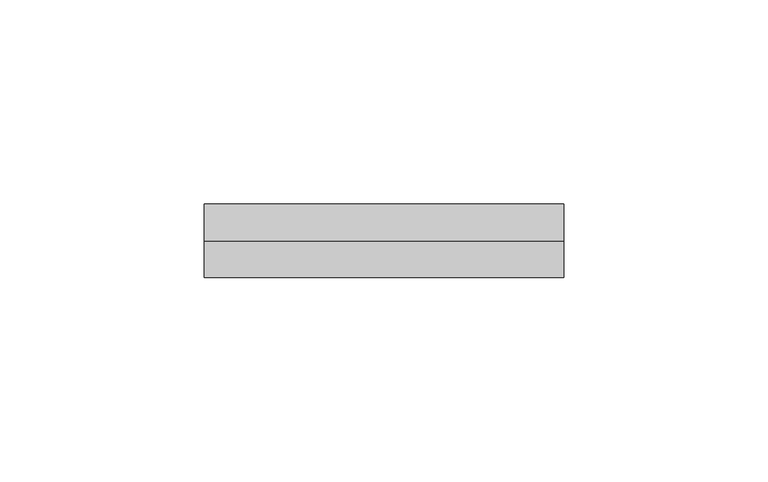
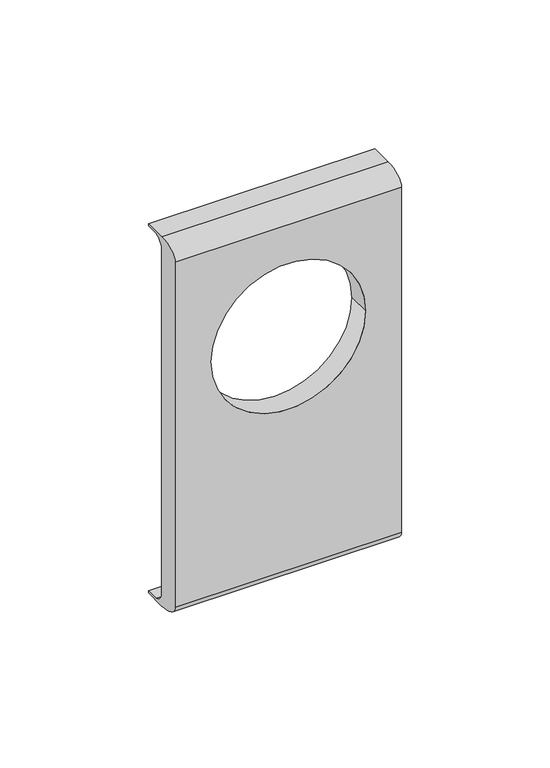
"""IFC4 building model written with IfcOpenShell, lengths in millimetres: proxy geometry, КНС_РамкаСуппортPDA-N_ILC_DKC : Рамка суппорт PDA-N_DKC."""

from ifc_helpers import new_model, si_unit, point, frame, origin, place, context, project, spatial, polyline, circle_curve, ellipse_curve, trimmed, source, transform, mapped, element, save
from ifc_brep_helpers import plane_surface, revolved_surface, extruded_surface, advanced_brep


def electrical_fixtures_1235a608(model_context):
    return source(origin(), model_context, "Body", "AdvancedBrep", [
        advanced_brep(
        [(44.0, 9.0, 50.85), (44.0, 0.0, 50.85), (44.0, -9.0, 45.85), (44.0, -9.0, -95.85), (44.0, 0.0, -100.85), (44.0, 9.0, -100.85), (44.0, 9.0, -100.0), (44.0, 3.9801295, -100.0), (44.0, 0.0, -95.85), (44.0, 0.0, 45.85), (44.0, 3.9801295, 50.0), (44.0, 9.0, 50.0), (-44.0, 9.0, 50.85), (-44.0, 9.0, 50.0), (-44.0, 3.9801295, 50.0), (-44.0, 0.0, 45.85), (-44.0, 0.0, -95.85), (-44.0, 3.9801295, -100.0), (-44.0, 9.0, -100.0), (-44.0, 9.0, -100.85), (-44.0, 0.0, -100.85), (-44.0, -9.0, -95.85), (-44.0, -9.0, 45.85), (-44.0, 0.0, 50.85), (30.0, -9.0, 0.0), (-30.0, -9.0, 0.0), (-30.0, 0.0, 0.0), (30.0, 0.0, 0.0)],
        [
            (0, 1),
            (1, 2, ellipse_curve(frame((44.0, 0.0, 45.85), z_axis=(1.0, 0.0, 0.0), x_axis=(0.0, 1.0, 0.0)), 9.0, 5.0)),
            (2, 3),
            (3, 4, ellipse_curve(frame((44.0, 0.0, -95.85), z_axis=(1.0, 0.0, 0.0), x_axis=(0.0, 1.0, 0.0)), 9.0, 5.0)),
            (4, 5),
            (5, 6),
            (6, 7),
            (7, 8, ellipse_curve(frame((44.0, 9.0, -95.85), z_axis=(-1.0, 0.0, 0.0), x_axis=(0.0, 1.0, 0.0)), 9.0, 5.0)),
            (8, 9),
            (9, 10, ellipse_curve(frame((44.0, 9.0, 45.85), z_axis=(-1.0, 0.0, 0.0), x_axis=(0.0, 1.0, 0.0)), 9.0, 5.0)),
            (10, 11),
            (11, 0),
            (12, 13),
            (13, 14),
            (14, 15, ellipse_curve(frame((-44.0, 9.0, 45.85), z_axis=(1.0, 0.0, 0.0), x_axis=(0.0, 1.0, 0.0)), 9.0, 5.0)),
            (15, 16),
            (16, 17, ellipse_curve(frame((-44.0, 9.0, -95.85), z_axis=(1.0, 0.0, 0.0), x_axis=(0.0, 1.0, 0.0)), 9.0, 5.0)),
            (17, 18),
            (18, 19),
            (19, 20),
            (20, 21, ellipse_curve(frame((-44.0, 0.0, -95.85), z_axis=(-1.0, 0.0, 0.0), x_axis=(0.0, 1.0, 0.0)), 9.0, 5.0)),
            (21, 22),
            (22, 23, ellipse_curve(frame((-44.0, 0.0, 45.85), z_axis=(-1.0, 0.0, 0.0), x_axis=(0.0, 1.0, 0.0)), 9.0, 5.0)),
            (23, 12),
            (0, 12),
            (23, 1),
            (2, 22),
            (21, 3),
            (24, 25, circle_curve(frame((0.0, -9.0, 0.0), z_axis=(0.0, 1.0, 0.0), x_axis=(1.0, 0.0, 0.0)), 30.0)),
            (25, 24, circle_curve(frame((0.0, -9.0, 0.0), z_axis=(0.0, 1.0, 0.0), x_axis=(1.0, 0.0, 0.0)), 30.0)),
            (4, 20),
            (19, 5),
            (18, 6),
            (17, 7),
            (8, 16),
            (15, 9),
            (26, 27, circle_curve(frame((0.0, 0.0, 0.0), z_axis=(0.0, -1.0, 0.0), x_axis=(1.0, 0.0, 0.0)), 30.0)),
            (27, 26, circle_curve(frame((0.0, 0.0, 0.0), z_axis=(0.0, -1.0, 0.0), x_axis=(1.0, 0.0, 0.0)), 30.0)),
            (10, 14),
            (13, 11),
            (24, 27),
            (26, 25),
        ],
        [
            plane_surface(frame((44.0, 9.0, 50.85), z_axis=(1.0, 0.0, 0.0), x_axis=(0.0, -1.0, 0.0))),
            plane_surface(frame((-44.0, 9.0, 50.85), z_axis=(-1.0, 0.0, 0.0), x_axis=(0.0, 1.0, 0.0))),
            plane_surface(frame((44.0, 9.0, 50.85), z_axis=(0.0, 0.0, 1.0), x_axis=(-1.0, 0.0, 0.0))),
            plane_surface(frame((44.0, -9.0, 45.85), z_axis=(0.0, -1.0, 0.0), x_axis=(-1.0, 0.0, 0.0))),
            plane_surface(frame((44.0, 0.0, -100.85), z_axis=(0.0, 0.0, -1.0), x_axis=(-1.0, 0.0, 0.0))),
            plane_surface(frame((44.0, 9.0, -100.85), z_axis=(0.0, 1.0, 0.0), x_axis=(-1.0, 0.0, 0.0))),
            plane_surface(frame((44.0, 9.0, -100.0), z_axis=(0.0, 0.0, 1.0), x_axis=(-1.0, 0.0, 0.0))),
            plane_surface(frame((44.0, 0.0, -95.85), z_axis=(0.0, 1.0, 0.0), x_axis=(-1.0, 0.0, 0.0))),
            plane_surface(frame((44.0, 3.9801295, 50.0), z_axis=(0.0, 0.0, -1.0), x_axis=(-1.0, 0.0, 0.0))),
            plane_surface(frame((44.0, 9.0, 50.0), z_axis=(0.0, 1.0, 0.0), x_axis=(-1.0, 0.0, 0.0))),
            extruded_surface(trimmed(ellipse_curve(frame((-132.0, 0.0, 45.85), z_axis=(1.0, 0.0, 0.0), x_axis=(0.0, 1.0, 0.0)), 9.0, 5.0), [point((-132.0, 0.0, 50.85))], [point((-132.0, -9.0, 45.85))], True, "CARTESIAN"), (88.0, 0.0, 0.0), 88.0),
            extruded_surface(trimmed(ellipse_curve(frame((-132.0, 0.0, -95.85), z_axis=(1.0, 0.0, 0.0), x_axis=(0.0, 1.0, 0.0)), 9.0, 5.0), [point((-132.0, -9.0, -95.85))], [point((-132.0, 0.0, -100.85))], True, "CARTESIAN"), (88.0, 0.0, 0.0), 88.0),
            extruded_surface(trimmed(ellipse_curve(frame((-132.0, 9.0, -95.85), z_axis=(-1.0, 0.0, 0.0), x_axis=(0.0, 1.0, 0.0)), 9.0, 5.0), [point((-132.0, 3.9801295, -100.0))], [point((-132.0, 0.0, -95.85))], True, "CARTESIAN"), (88.0, 0.0, 0.0), 88.0),
            extruded_surface(trimmed(ellipse_curve(frame((-132.0, 9.0, 45.85), z_axis=(-1.0, 0.0, 0.0), x_axis=(0.0, 1.0, 0.0)), 9.0, 5.0), [point((-132.0, 0.0, 45.85))], [point((-132.0, 3.9801295, 50.0))], True, "CARTESIAN"), (88.0, 0.0, 0.0), 88.0),
            revolved_surface(polyline([(30.0, -9.0, 0.0), (30.0, 0.0, 0.0)]), (0.0, 0.0, 0.0), (0.0, -1.0, 0.0)),
        ],
        [
            (0, [[1, 2, 3, 4, 5, 6, 7, 8, 9, 10, 11, 12]]),
            (1, [[13, 14, 15, 16, 17, 18, 19, 20, 21, 22, 23, 24]]),
            (2, [[-1, 25, -24, 26]]),
            (3, [[-3, 27, -22, 28], [29, 30]]),
            (4, [[-5, 31, -20, 32]]),
            (5, [[-6, -32, -19, 33]]),
            (6, [[-7, -33, -18, 34]]),
            (7, [[-9, 35, -16, 36], [37, 38]]),
            (8, [[-11, 39, -14, 40]]),
            (9, [[-12, -40, -13, -25]]),
            (10, [[-2, -26, -23, -27]]),
            (11, [[-4, -28, -21, -31]]),
            (12, [[-8, -34, -17, -35]]),
            (13, [[-10, -36, -15, -39]]),
            (14, [[41, -37, 42, -29]]),
            (14, [[-41, -30, -42, -38]]),
        ],
    ),
    ])


if __name__ == "__main__":
    model = new_model("IFC4")
    model_context = context("Model", 3, world=origin())
    ifc_project = project(units=[si_unit("LENGTHUNIT", "METRE", prefix="MILLI")], contexts=[model_context])
    site = spatial("IfcSite", under=ifc_project)
    building = spatial("IfcBuilding", under=site)
    placement = place(None, origin())
    electrical_fixtures_shape = electrical_fixtures_1235a608(model_context)
    element("IfcBuildingElementProxy", 1, Name="КНС_РамкаСуппортPDA-N_ILC_DKC : Рамка суппорт PDA-N_DKC", ObjectType="КНС_РамкаСуппортPDA-N_ILC_DKC : Рамка суппорт PDA-N_DKC", at=placement, inside=building, context=model_context, shape_type="MappedRepresentation", body=[
        mapped(electrical_fixtures_shape, transform((0.0, 0.0, 0.0), x_axis=(1.0, 0.0, 0.0), y_axis=(0.0, 1.0, 0.0), z_axis=(0.0, 0.0, 1.0))),
    ])
    save(model, "model.ifc")
